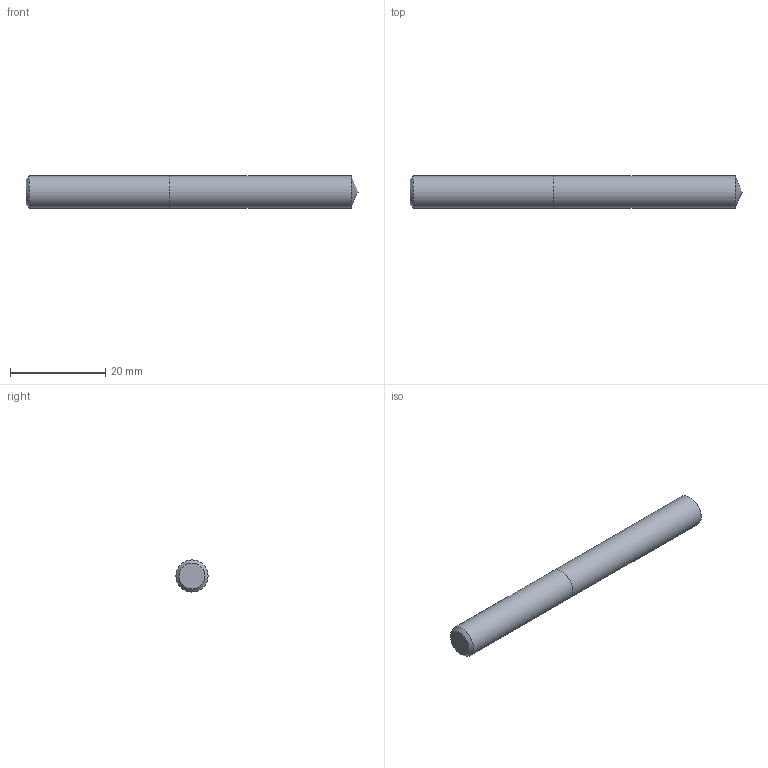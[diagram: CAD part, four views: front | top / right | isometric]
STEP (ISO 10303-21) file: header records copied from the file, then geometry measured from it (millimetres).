
FILE_DESCRIPTION (( 'STEP AP214' ), '1' );
FILE_NAME ('03-2324.STEP', '2022-06-03T06:13:33', ( 'USER' ), ( '' ), 'SwSTEP 2.0', 'SolidWorks 2018', '' );
FILE_SCHEMA (( 'AUTOMOTIVE_DESIGN' ));
Length unit declared in the file: inch
Products named in the file (1): 03-2324
Bounding box: 69.66 x 6.76 x 6.76 mm (x, y, z)
Volume: 2459.6 mm3; surface area: 1586.3 mm2
Topology: 2 solids, 2 shells, 7 faces, 11 edges, 7 vertices
Faces by surface type: plane 3, cylinder 2, cone 2
Full cylindrical faces by diameter (mm): 6.756 x2
Entity records: 214 total; most frequent: DIRECTION 26, CARTESIAN_POINT 18, AXIS2_PLACEMENT_3D 13, ORIENTED_EDGE 10, EDGE_LOOP 10, FACE_OUTER_BOUND 9, UNCERTAINTY_MEASURE_WITH_UNIT 7, LENGTH_MEASURE_WITH_UNIT 7
